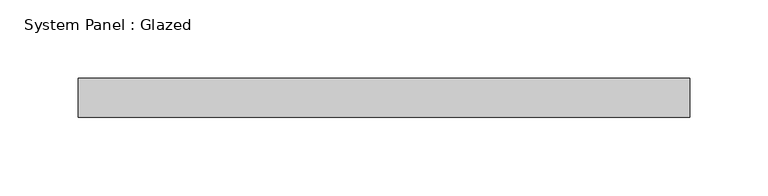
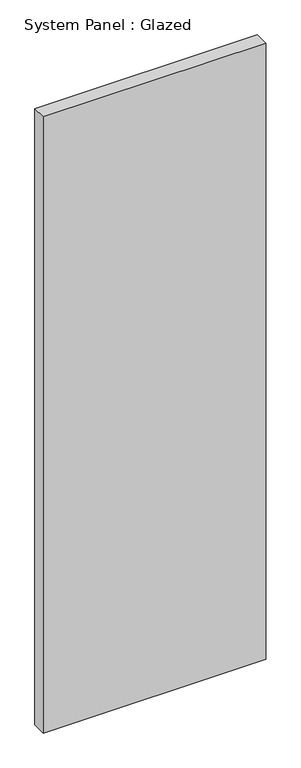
"""IFC4 building model written with IfcOpenShell, lengths in millimetres: plate geometry, System Panel : Glazed."""

from ifc_helpers import new_model, si_unit, origin, origin_with_axes, place, context, project, spatial, polyline, outline, extrude, source, transform, mapped, element, save


def system_panel_glazed_ce587d5a(model_context):
    return source(origin(), model_context, "Body", "SweptSolid", [
        extrude(outline(polyline([(195.3984213, -49.5), (-195.3984213, -49.5), (-195.3984213, -24.5), (195.3984213, -24.5), (195.3984213, -49.5)])), origin_with_axes(), (0.0, 0.0, 1.0), 1144.0),
    ])


if __name__ == "__main__":
    model = new_model("IFC4")
    model_context = context("Model", 3, world=origin())
    ifc_project = project(units=[si_unit("LENGTHUNIT", "METRE", prefix="MILLI")], contexts=[model_context])
    site = spatial("IfcSite", under=ifc_project)
    building = spatial("IfcBuilding", under=site)
    placement = place(None, origin())
    system_panel_glazed_shape = system_panel_glazed_ce587d5a(model_context)
    element("IfcPlate", 1, ObjectType="System Panel : Glazed", at=placement, inside=building, context=model_context, shape_type="MappedRepresentation", body=[
        mapped(system_panel_glazed_shape, transform((0.0, 0.0, 0.0), x_axis=(1.0, 0.0, 0.0), y_axis=(0.0, 1.0, 0.0), z_axis=(0.0, 0.0, 1.0))),
    ])
    save(model, "model.ifc")
